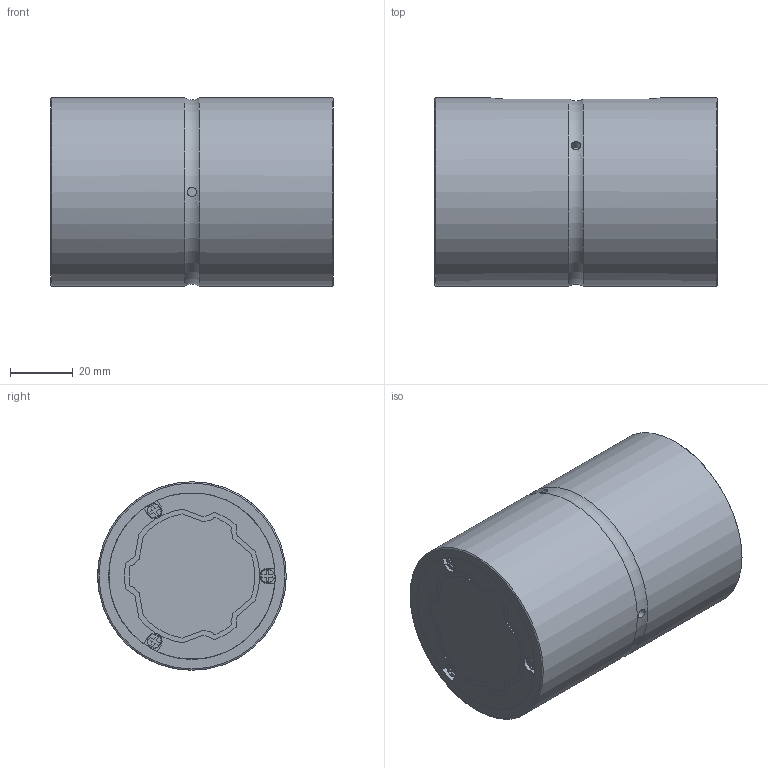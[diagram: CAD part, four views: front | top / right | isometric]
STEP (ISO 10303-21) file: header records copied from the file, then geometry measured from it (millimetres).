
FILE_DESCRIPTION(/* description */ ('STEP AP203'),/* implementation_level */ '2;1');
FILE_NAME(/* name */ 'SLS40190(00)',/* time_stamp */ '2024-05-23T11:47:01+02:00',/* author */ ('License CC BY-ND 4.0'),/* organization */ ('CADENAS'),/* preprocessor_version */ 'ST-DEVELOPER v19.3',/* originating_system */ 'PARTsolutions',/* authorisation */ ' ');
FILE_SCHEMA (('CONFIG_CONTROL_DESIGN'));
Length unit declared in the file: millimetre
Products named in the file (3): SLS40190(00); 40(X90); 40X cylinder
Assembly tree (2 placements, depth 2):
  SLS40190(00)
    40(X90)
    40X cylinder
Bounding box: 90 x 60 x 60 mm (x, y, z)
Volume: 251279.5 mm3; surface area: 46894.6 mm2
Topology: 2 solids, 2 shells, 266 faces, 724 edges, 481 vertices
Faces by surface type: plane 164, cylinder 93, torus 9
Full cylindrical faces by diameter (mm): 3 x3, 4.5 x6, 53 x2, 60 x2
Entity records: 8354 total; most frequent: CARTESIAN_POINT 1489, DIRECTION 1426, ORIENTED_EDGE 1392, EDGE_CURVE 696, LINE 490, VECTOR 490, VERTEX_POINT 474, AXIS2_PLACEMENT_3D 468
